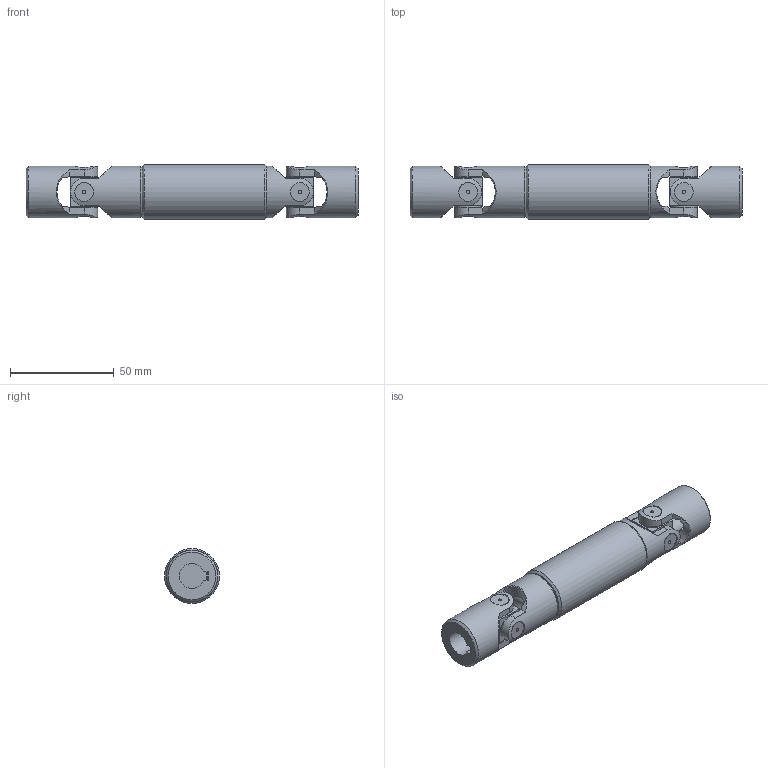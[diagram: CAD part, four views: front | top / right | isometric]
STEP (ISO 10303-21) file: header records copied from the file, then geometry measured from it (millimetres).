
FILE_DESCRIPTION(/* description */ (''),/* implementation_level */ '2;1');
FILE_NAME(/* name */ '\\SRV2016\Societa\Stefano\Disegni 3D\00Catalogo 3D\03Trasmissioni standard GA\!04GA1\!04GA1_SG0A1210.stp',/* time_stamp */ '2022-02-15T10:44:28+01:00',/* author */ ('acquisti'),/* organization */ (''),/* preprocessor_version */ 'ST-DEVELOPER v15.6',/* originating_system */ 'Autodesk Inventor 2015',/* authorisation */ '');
FILE_SCHEMA (('AUTOMOTIVE_DESIGN { 1 0 10303 214 3 1 1 }'));
Length unit declared in the file: millimetre
Products named in the file (5): !04GA1 LCI; !04GA1 LAI; 04G MOC; 04G SFE; !04GA1_SG0A1210
Assembly tree (6 placements, depth 2):
  !04GA1_SG0A1210
    !04GA1 LCI
    !04GA1 LAI
    04G MOC  x2
    04G SFE  x2
Bounding box: 160 x 26.5 x 26.5 mm (x, y, z)
Volume: 64202.1 mm3; surface area: 27212.3 mm2
Topology: 6 solids, 6 shells, 228 faces, 559 edges, 367 vertices
Faces by surface type: plane 106, cylinder 93, cone 25, torus 4
Full cylindrical faces by diameter (mm): 1.5 x8, 12 x1, 12.5 x8, 13 x2, 21 x1, 25 x4, 26.5 x1
Entity records: 5789 total; most frequent: CARTESIAN_POINT 1679, DIRECTION 823, ORIENTED_EDGE 820, EDGE_CURVE 410, AXIS2_PLACEMENT_3D 335, VERTEX_POINT 286, EDGE_LOOP 224, FACE_OUTER_BOUND 176
